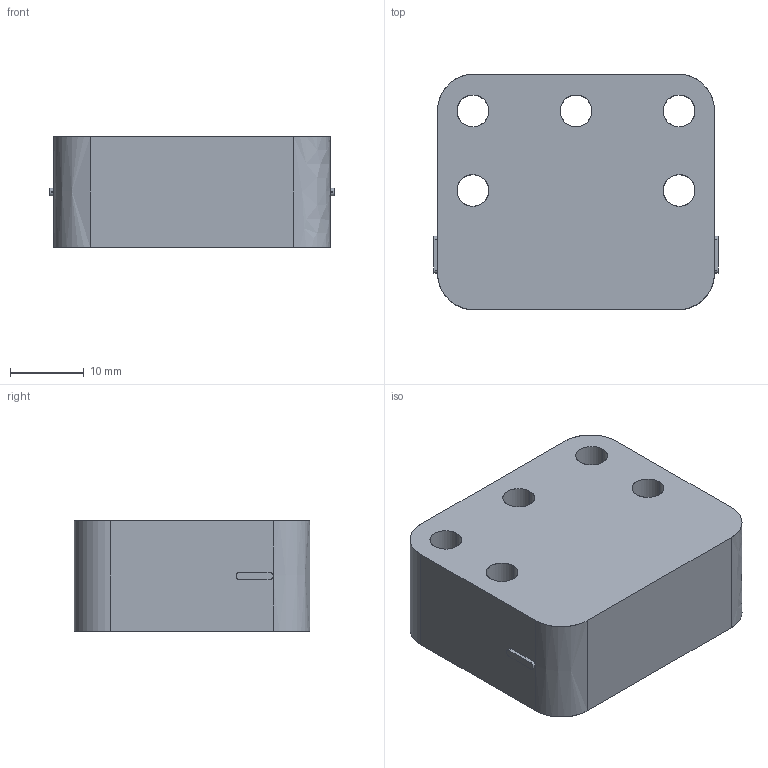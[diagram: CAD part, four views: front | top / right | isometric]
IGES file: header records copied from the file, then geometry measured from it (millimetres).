
Start section: SolidWorks IGES file using analytic representation for surfaces
Global section: file name: \\srv4gefran\dir-cat\Disegni Catalogo\Posizione\WPG\WPG-A-0100\3D\Solidworks 2019\ACCESSORI\PCUR202X.IGS; native system: SolidWorks 2019; preprocessor: SolidWorks 2019; author: Loda-w1; date: 181217.142514; units: millimetre
Bounding box: 38.6 x 32 x 15 mm (x, y, z)
Surface area: 5202 mm2 (no closed solid volume)
Topology: 0 solids, 0 shells, 38 faces, 612 edges, 612 vertices
Faces by surface type: revolution 22, bspline 16
